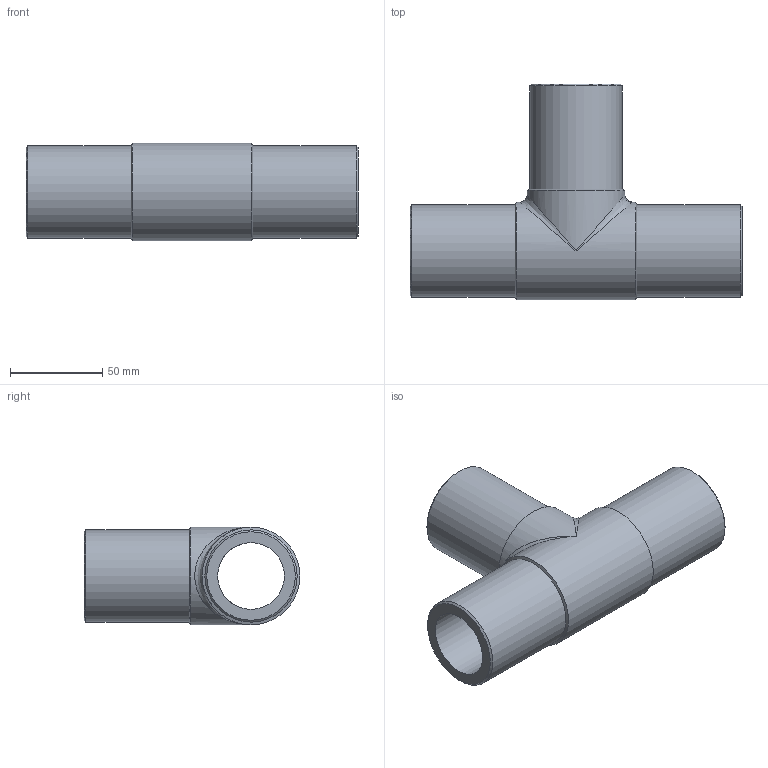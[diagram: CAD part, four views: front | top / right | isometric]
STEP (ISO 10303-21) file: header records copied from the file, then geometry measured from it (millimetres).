
FILE_DESCRIPTION(/* description */ ('Unknown'),/* implementation_level */ '2;1');
FILE_NAME(/* name */ 'TP050H',/* time_stamp */ '2021-08-12T16:32:16+02:00',/* author */ ('Unknown'),/* organization */ ('Unknown'),/* preprocessor_version */ 'ST-DEVELOPER v16.7',/* originating_system */ 'Solid Edge',/* authorisation */ 'Unknown');
FILE_SCHEMA (('AUTOMOTIVE_DESIGN {1 0 10303 214 3 1 1}'));
Length unit declared in the file: millimetre
Products named in the file (1): TP050H
Bounding box: 180 x 117 x 53 mm (x, y, z)
Volume: 242871.1 mm3; surface area: 68887.9 mm2
Topology: 1 solids, 1 shells, 18 faces, 44 edges, 23 vertices
Faces by surface type: cylinder 7, cone 6, plane 3, bspline 2
Full cylindrical faces by diameter (mm): 36.2 x2, 50 x3, 53 x2
Entity records: 504 total; most frequent: CARTESIAN_POINT 147, DIRECTION 76, ORIENTED_EDGE 42, AXIS2_PLACEMENT_3D 38, EDGE_LOOP 36, FACE_BOUND 36, EDGE_CURVE 21, VERTEX_POINT 19
